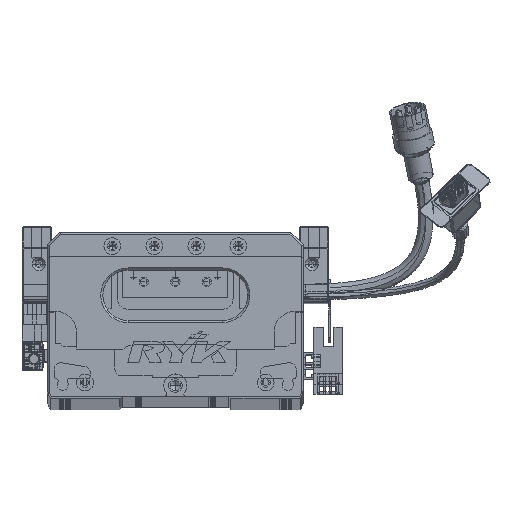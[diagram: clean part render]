
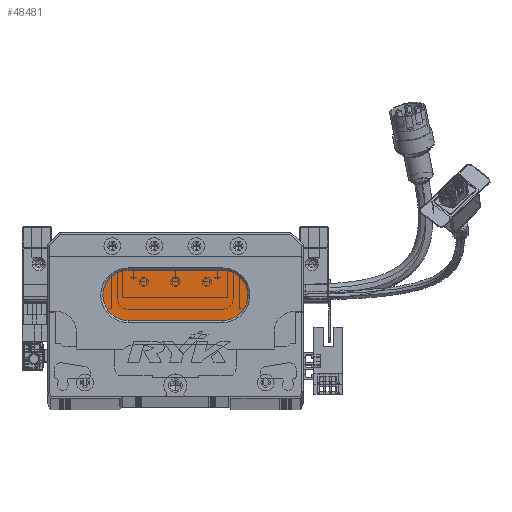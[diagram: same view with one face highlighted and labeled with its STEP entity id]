
A CAD part, top view. The second image highlights one B-rep face of the part: STEP entity #48481.
In plain terms, the highlighted planar face has unit normal (0, 0, 1) as drawn and (0, 0, -1) by its records, which use the part's own axes.
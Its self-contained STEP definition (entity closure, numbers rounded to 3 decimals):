
#169 = VECTOR ( 'NONE', #129826, 1000. ) ;
#6325 = DIRECTION ( 'NONE',  ( -1., 0., 0. ) ) ;
#7528 = ORIENTED_EDGE ( 'NONE', *, *, #100339, .T. ) ;
#8261 = EDGE_CURVE ( 'NONE', #9119, #29276, #75934, .T. ) ;
#9119 = VERTEX_POINT ( 'NONE', #67110 ) ;
#11971 = DIRECTION ( 'NONE',  ( 0., 0., -1. ) ) ;
#14524 = ORIENTED_EDGE ( 'NONE', *, *, #112847, .T. ) ;
#15541 = DIRECTION ( 'NONE',  ( 0., 0., -1. ) ) ;
#22655 = VERTEX_POINT ( 'NONE', #82262 ) ;
#23178 = EDGE_CURVE ( 'NONE', #29276, #68646, #128824, .T. ) ;
#29100 = CARTESIAN_POINT ( 'NONE',  ( 38.5, 48., 13. ) ) ;
#29276 = VERTEX_POINT ( 'NONE', #69020 ) ;
#31114 = DIRECTION ( 'NONE',  ( 1., 0., 0. ) ) ;
#35545 = LINE ( 'NONE', #42561, #130638 ) ;
#42561 = CARTESIAN_POINT ( 'NONE',  ( 83.5, 60., 13. ) ) ;
#42892 = AXIS2_PLACEMENT_3D ( 'NONE', #69203, #15541, #6325 ) ;
#44135 = CARTESIAN_POINT ( 'NONE',  ( 38.5, 60., 13. ) ) ;
#48481 = ADVANCED_FACE ( 'NONE', ( #76916 ), #90674, .T. ) ;
#48832 = DIRECTION ( 'NONE',  ( 0., 0., -1. ) ) ;
#49136 = CIRCLE ( 'NONE', #90628, 12. ) ;
#49277 = CARTESIAN_POINT ( 'NONE',  ( 83.5, 48., 13. ) ) ;
#56529 = CARTESIAN_POINT ( 'NONE',  ( 83.5, 36., 13. ) ) ;
#57553 = LINE ( 'NONE', #56529, #169 ) ;
#59840 = DIRECTION ( 'NONE',  ( 0., 0., -1. ) ) ;
#64951 = EDGE_LOOP ( 'NONE', ( #105687, #14524, #108128, #107020, #7528 ) ) ;
#67110 = CARTESIAN_POINT ( 'NONE',  ( 38.5, 36., 13. ) ) ;
#68646 = VERTEX_POINT ( 'NONE', #44135 ) ;
#69020 = CARTESIAN_POINT ( 'NONE',  ( 26.5, 48., 13. ) ) ;
#69203 = CARTESIAN_POINT ( 'NONE',  ( 83.5, 48., 13. ) ) ;
#75934 = CIRCLE ( 'NONE', #113771, 12. ) ;
#76916 = FACE_OUTER_BOUND ( 'NONE', #64951, .T. ) ;
#79163 = CARTESIAN_POINT ( 'NONE',  ( 83.5, 60., 13. ) ) ;
#82262 = CARTESIAN_POINT ( 'NONE',  ( 83.5, 36., 13. ) ) ;
#86820 = AXIS2_PLACEMENT_3D ( 'NONE', #96765, #11971, #95863 ) ;
#90628 = AXIS2_PLACEMENT_3D ( 'NONE', #49277, #48832, #99675 ) ;
#90674 = PLANE ( 'NONE',  #42892 ) ;
#95863 = DIRECTION ( 'NONE',  ( -1., 0., 0. ) ) ;
#96765 = CARTESIAN_POINT ( 'NONE',  ( 38.5, 48., 13. ) ) ;
#98556 = EDGE_CURVE ( 'NONE', #128893, #22655, #49136, .T. ) ;
#99675 = DIRECTION ( 'NONE',  ( -1., 0., 0. ) ) ;
#100339 = EDGE_CURVE ( 'NONE', #68646, #128893, #35545, .T. ) ;
#105687 = ORIENTED_EDGE ( 'NONE', *, *, #98556, .T. ) ;
#107020 = ORIENTED_EDGE ( 'NONE', *, *, #23178, .T. ) ;
#108128 = ORIENTED_EDGE ( 'NONE', *, *, #8261, .T. ) ;
#112847 = EDGE_CURVE ( 'NONE', #22655, #9119, #57553, .T. ) ;
#113771 = AXIS2_PLACEMENT_3D ( 'NONE', #29100, #59840, #133180 ) ;
#128824 = CIRCLE ( 'NONE', #86820, 12. ) ;
#128893 = VERTEX_POINT ( 'NONE', #79163 ) ;
#129826 = DIRECTION ( 'NONE',  ( -1., 0., 0. ) ) ;
#130638 = VECTOR ( 'NONE', #31114, 1000. ) ;
#133180 = DIRECTION ( 'NONE',  ( -1., 0., 0. ) ) ;
